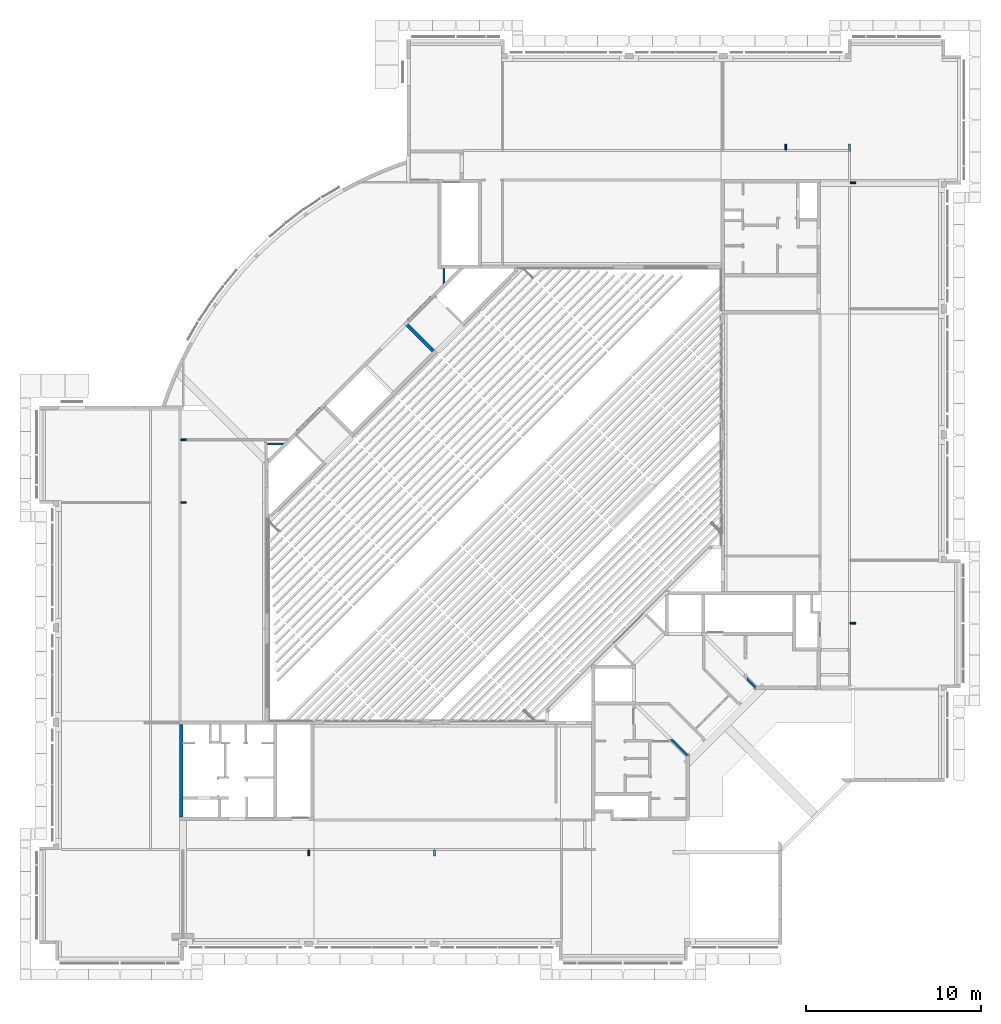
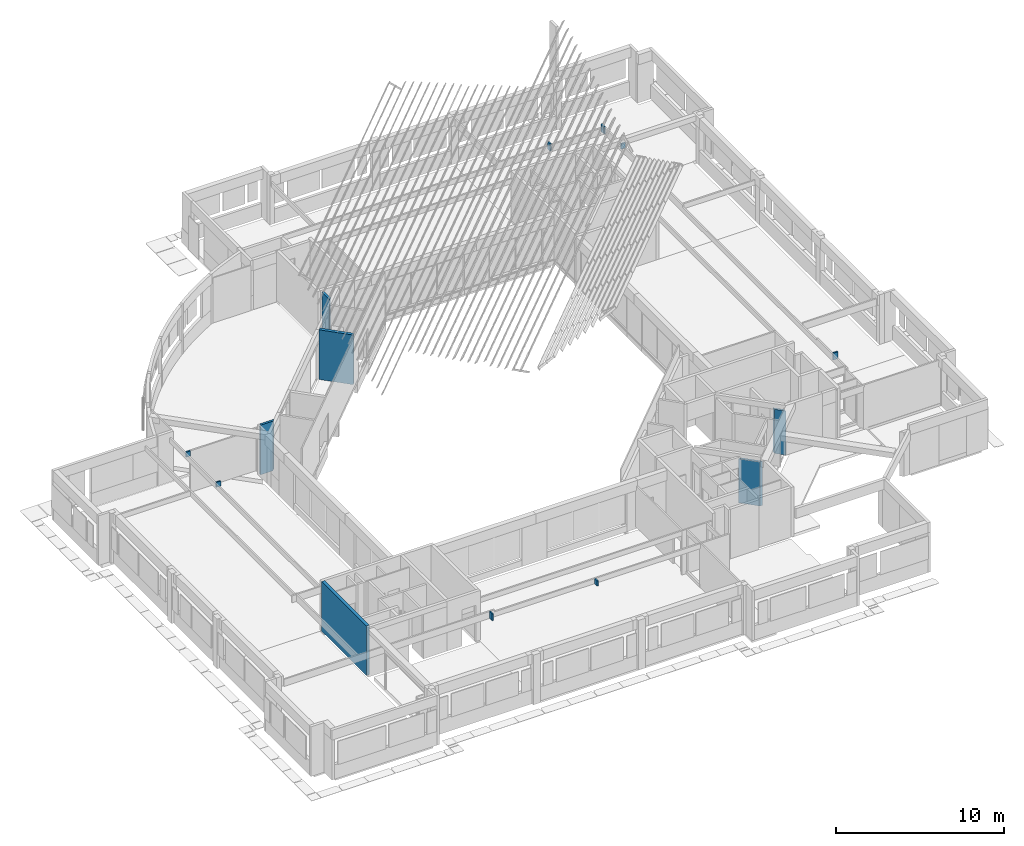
# One storey, part 31 of 37: 14 walls.
"""IFC4X3_ADD2 building model written with IfcOpenShell, lengths in millimetres."""

from ifc_helpers import new_model, si_unit, direction, frame, origin_with_axes, origin_2d_with_axis, place, context, subcontext, project, spatial, rectangle, extrude, polygons, source, transform, mapped, type_object, type_shapes, element, save


model = new_model("IFC4X3_ADD2")

# Units and contexts
model_context = context("Model", 3, precision=1e-05, world=origin_with_axes(), true_north=direction((0.0, 1.0)))
body_context = subcontext(model_context, "Body", "Model", "MODEL_VIEW")
ifc_project = project(units=[si_unit("LENGTHUNIT", "METRE", prefix="MILLI"), si_unit("AREAUNIT", "SQUARE_METRE"), si_unit("VOLUMEUNIT", "CUBIC_METRE"), si_unit("PLANEANGLEUNIT", "RADIAN"), si_unit("TIMEUNIT", "SECOND"), si_unit("MASSUNIT", "GRAM")], contexts=[model_context])

# Site, building, storey
site_placement = place(None, origin_with_axes())
site = spatial("IfcSite", under=ifc_project, at=site_placement, Name="Site", CompositionType="ELEMENT")
building_placement = place(site_placement, origin_with_axes())
building = spatial("IfcBuilding", under=site, at=building_placement, Name="IFC Building Story")
storey_placement = place(building_placement, frame((0.0, 0.0, 3600.0), z_axis=(0.0, 0.0, 1.0), x_axis=(1.0, 0.0, 0.0)))
storey = spatial("IfcBuildingStorey", under=building, at=storey_placement, Name="010", Elevation=3600.0)

# Walls
wall_type_1 = type_object("IfcWallType", Name="Basic Wall_BB_10.01.41#03_Gipskartonwand_43dB_MS100 _ 25.50.25_ 100 mm53", PredefinedType="NOTDEFINED")
shared_shape_1 = source(origin_with_axes(), body_context, "Body", "SweptSolid", [
    extrude(rectangle(XDim=299.999999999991, YDim=12.49999999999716, at=origin_2d_with_axis()), frame((150.0, 43.74999999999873, 0.0), z_axis=(0.0, 0.0, 1.0), x_axis=(1.0, 0.0, 0.0)), (0.0, 0.0, 1.0), 369.999999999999),
    extrude(rectangle(XDim=299.999999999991, YDim=12.49999999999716, at=origin_2d_with_axis()), frame((150.0, 31.25000000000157, 0.0), z_axis=(0.0, 0.0, 1.0), x_axis=(1.0, 0.0, 0.0)), (0.0, 0.0, 1.0), 369.999999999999),
    extrude(rectangle(XDim=299.999999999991, YDim=50.000000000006, at=origin_2d_with_axis()), frame((150.0, 0.0, 0.0), z_axis=(0.0, 0.0, 1.0), x_axis=(1.0, 0.0, 0.0)), (0.0, 0.0, 1.0), 369.999999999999),
    extrude(rectangle(XDim=299.999999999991, YDim=12.49999999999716, at=origin_2d_with_axis()), frame((150.0, -31.25000000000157, 0.0), z_axis=(0.0, 0.0, 1.0), x_axis=(1.0, 0.0, 0.0)), (0.0, 0.0, 1.0), 369.999999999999),
    extrude(rectangle(XDim=299.999999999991, YDim=12.50000000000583, at=origin_2d_with_axis()), frame((150.0, -43.750000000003, 0.0), z_axis=(0.0, 0.0, 1.0), x_axis=(1.0, 0.0, 0.0)), (0.0, 0.0, 1.0), 369.999999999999),
])
type_shapes(wall_type_1, [shared_shape_1])
wall_1_placement = place(storey_placement, frame((-5300.0, 43500.0, 2640.0), z_axis=(0.0, 0.0, 1.0), x_axis=(1.0, 0.0, 0.0)))
element("IfcWall", 1, at=wall_1_placement, inside=storey, type_object=wall_type_1, Name="Basic Wall:BB_10.01.41#03_Gipskartonwand_43dB_MS100 / 25.50.25, 100 mm", ObjectType="Basic Wall:BB_10.01.41#03_Gipskartonwand_43dB_MS100 / 25.50.25, 100 mm", PredefinedType="PARTITIONING", context=body_context, shape_type="MappedRepresentation", body=[
    mapped(shared_shape_1, transform((0.0, 0.0, 0.0))),
])
wall_type_2 = type_object("IfcWallType", Name="Basic Wall_BB_10.01.41#01_Gipskartonwand_MS100 _ 25.50.25_ 100 mm29", PredefinedType="NOTDEFINED")
shared_shape_2 = source(origin_with_axes(), body_context, "Body", "SweptSolid", [
    extrude(rectangle(XDim=400.000000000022, YDim=12.49999999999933, at=origin_2d_with_axis()), frame((199.999999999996, 43.74999999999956, 0.0), z_axis=(0.0, 0.0, 1.0), x_axis=(1.0, 0.0, 0.0)), (0.0, 0.0, 1.0), 500.000000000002),
    extrude(rectangle(XDim=387.500000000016, YDim=12.50000000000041, at=origin_2d_with_axis()), frame((193.750000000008, 31.2499999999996, 0.0), z_axis=(0.0, 0.0, 1.0), x_axis=(1.0, 0.0, 0.0)), (0.0, 0.0, 1.0), 500.000000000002),
    extrude(rectangle(XDim=375.000000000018, YDim=49.9999999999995, at=origin_2d_with_axis()), frame((187.500000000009, 0.0, 0.0), z_axis=(0.0, 0.0, 1.0), x_axis=(1.0, 0.0, 0.0)), (0.0, 0.0, 1.0), 500.000000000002),
    extrude(rectangle(XDim=325.000000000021, YDim=12.5000000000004, at=origin_2d_with_axis()), frame((162.5000000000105, -31.2500000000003, 0.0), z_axis=(0.0, 0.0, 1.0), x_axis=(1.0, 0.0, 0.0)), (0.0, 0.0, 1.0), 500.000000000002),
    extrude(rectangle(XDim=312.500000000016, YDim=12.50000000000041, at=origin_2d_with_axis()), frame((156.249999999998, -43.75000000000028, 0.0), z_axis=(0.0, 0.0, 1.0), x_axis=(1.0, 0.0, 0.0)), (0.0, 0.0, 1.0), 500.000000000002),
])
type_shapes(wall_type_2, [shared_shape_2])
wall_2_placement = place(storey_placement, frame((-5350.0, 45700.0, 2640.0), z_axis=(0.0, 0.0, 1.0), x_axis=(0.0, -1.0, 0.0)))
element("IfcWall", 2, at=wall_2_placement, inside=storey, type_object=wall_type_2, Name="Basic Wall:BB_10.01.41#01_Gipskartonwand_MS100 / 25.50.25, 100 mm", ObjectType="Basic Wall:BB_10.01.41#01_Gipskartonwand_MS100 / 25.50.25, 100 mm", PredefinedType="PARTITIONING", context=body_context, shape_type="MappedRepresentation", body=[
    mapped(shared_shape_2, transform((0.0, 0.0, 0.0))),
])
wall_type_3 = type_object("IfcWallType", Name="Basic Wall_BB_10.01.41#01_Gipskartonwand_MS100 _ 25.50.25_ 100 mm35", PredefinedType="NOTDEFINED")
shared_shape_3 = source(origin_with_axes(), body_context, "Body", "SweptSolid", [
    extrude(rectangle(XDim=300.000000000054, YDim=12.49999999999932, at=origin_2d_with_axis()), frame((150.0, 43.74999999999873, 0.0), z_axis=(0.0, 0.0, 1.0), x_axis=(1.0, 0.0, 0.0)), (0.0, 0.0, 1.0), 499.999999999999),
    extrude(rectangle(XDim=300.000000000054, YDim=12.50000000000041, at=origin_2d_with_axis()), frame((150.0, 31.25000000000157, 0.0), z_axis=(0.0, 0.0, 1.0), x_axis=(1.0, 0.0, 0.0)), (0.0, 0.0, 1.0), 499.999999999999),
    extrude(rectangle(XDim=325.000000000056, YDim=49.9999999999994, at=origin_2d_with_axis()), frame((137.500000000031, 0.0, 0.0), z_axis=(0.0, 0.0, 1.0), x_axis=(1.0, 0.0, 0.0)), (0.0, 0.0, 1.0), 499.999999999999),
    extrude(rectangle(XDim=312.500000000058, YDim=12.50000000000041, at=origin_2d_with_axis()), frame((143.750000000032, -31.24999999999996, 0.0), z_axis=(0.0, 0.0, 1.0), x_axis=(1.0, 0.0, 0.0)), (0.0, 0.0, 1.0), 499.999999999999),
    extrude(rectangle(XDim=300.000000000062, YDim=12.50000000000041, at=origin_2d_with_axis()), frame((150.0, -43.750000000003, 0.0), z_axis=(0.0, 0.0, 1.0), x_axis=(1.0, 0.0, 0.0)), (0.0, 0.0, 1.0), 499.999999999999),
])
type_shapes(wall_type_3, [shared_shape_3])
wall_3_placement = place(storey_placement, frame((-9000.0, 45400.0, 2640.0), z_axis=(0.0, 0.0, 1.0), x_axis=(0.0, 1.0, 0.0)))
element("IfcWall", 3, at=wall_3_placement, inside=storey, type_object=wall_type_3, Name="Basic Wall:BB_10.01.41#01_Gipskartonwand_MS100 / 25.50.25, 100 mm", ObjectType="Basic Wall:BB_10.01.41#01_Gipskartonwand_MS100 / 25.50.25, 100 mm", PredefinedType="PARTITIONING", context=body_context, shape_type="MappedRepresentation", body=[
    mapped(shared_shape_3, transform((0.0, 0.0, 0.0))),
])
wall_type_4 = type_object("IfcWallType", Name="Basic Wall_BB_10.01.41#01_Gipskartonwand_MS100 _ 25.50.25_ 100 mm39", PredefinedType="NOTDEFINED")
shared_shape_4 = source(origin_with_axes(), body_context, "Body", "SweptSolid", [
    extrude(rectangle(XDim=300.000000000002, YDim=12.49999999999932, at=origin_2d_with_axis()), frame((150.0, 43.74999999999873, 0.0), z_axis=(0.0, 0.0, 1.0), x_axis=(1.0, 0.0, 0.0)), (0.0, 0.0, 1.0), 500.000000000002),
    extrude(rectangle(XDim=312.500000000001, YDim=12.49999999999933, at=origin_2d_with_axis()), frame((156.2500000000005, 31.25000000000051, 0.0), z_axis=(0.0, 0.0, 1.0), x_axis=(1.0, 0.0, 0.0)), (0.0, 0.0, 1.0), 500.000000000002),
    extrude(rectangle(XDim=325.000000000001, YDim=50.0000000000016, at=origin_2d_with_axis()), frame((162.5000000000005, 0.0, 0.0), z_axis=(0.0, 0.0, 1.0), x_axis=(1.0, 0.0, 0.0)), (0.0, 0.0, 1.0), 500.000000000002),
    extrude(rectangle(XDim=300.000000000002, YDim=12.49999999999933, at=origin_2d_with_axis()), frame((150.0, -31.25000000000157, 0.0), z_axis=(0.0, 0.0, 1.0), x_axis=(1.0, 0.0, 0.0)), (0.0, 0.0, 1.0), 500.000000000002),
    extrude(rectangle(XDim=300.000000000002, YDim=12.49999999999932, at=origin_2d_with_axis()), frame((150.0, -43.750000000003, 0.0), z_axis=(0.0, 0.0, 1.0), x_axis=(1.0, 0.0, 0.0)), (0.0, 0.0, 1.0), 500.000000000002),
])
type_shapes(wall_type_4, [shared_shape_4])
wall_4_placement = place(storey_placement, frame((-5000.0, 18300.0, 2640.0), z_axis=(0.0, 0.0, 1.0), x_axis=(-1.0, 0.0, 0.0)))
element("IfcWall", 4, at=wall_4_placement, inside=storey, type_object=wall_type_4, Name="Basic Wall:BB_10.01.41#01_Gipskartonwand_MS100 / 25.50.25, 100 mm", ObjectType="Basic Wall:BB_10.01.41#01_Gipskartonwand_MS100 / 25.50.25, 100 mm", PredefinedType="PARTITIONING", context=body_context, shape_type="MappedRepresentation", body=[
    mapped(shared_shape_4, transform((0.0, 0.0, 0.0))),
])
wall_type_5 = type_object("IfcWallType", Name="Basic Wall_BB_10.01.41#01_Gipskartonwand_MS100 _ 25.50.25_ 100 mm53", PredefinedType="NOTDEFINED")
shared_shape_5 = source(origin_with_axes(), body_context, "Body", "SweptSolid", [
    extrude(rectangle(XDim=300.000000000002, YDim=12.50000000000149, at=origin_2d_with_axis()), frame((150.0, 43.74999999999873, 0.0), z_axis=(0.0, 0.0, 1.0), x_axis=(1.0, 0.0, 0.0)), (0.0, 0.0, 1.0), 360.0),
    extrude(rectangle(XDim=312.500000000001, YDim=12.50000000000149, at=origin_2d_with_axis()), frame((156.2500000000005, 31.25000000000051, 0.0), z_axis=(0.0, 0.0, 1.0), x_axis=(1.0, 0.0, 0.0)), (0.0, 0.0, 1.0), 360.0),
    extrude(rectangle(XDim=325.0, YDim=49.9999999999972, at=origin_2d_with_axis()), frame((162.5000000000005, 0.0, 0.0), z_axis=(0.0, 0.0, 1.0), x_axis=(1.0, 0.0, 0.0)), (0.0, 0.0, 1.0), 360.0),
    extrude(rectangle(XDim=300.0, YDim=12.50000000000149, at=origin_2d_with_axis()), frame((150.0, -31.25000000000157, 0.0), z_axis=(0.0, 0.0, 1.0), x_axis=(1.0, 0.0, 0.0)), (0.0, 0.0, 1.0), 360.0),
    extrude(rectangle(XDim=300.0, YDim=12.49999999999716, at=origin_2d_with_axis()), frame((150.0, -43.750000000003, 0.0), z_axis=(0.0, 0.0, 1.0), x_axis=(1.0, 0.0, 0.0)), (0.0, 0.0, 1.0), 360.0),
])
type_shapes(wall_type_5, [shared_shape_5])
wall_5_placement = place(storey_placement, frame((-29100.0, 5000.0, 2640.0), z_axis=(0.0, 0.0, 1.0), x_axis=(0.0, 1.0, 0.0)))
element("IfcWall", 5, at=wall_5_placement, inside=storey, type_object=wall_type_5, Name="Basic Wall:BB_10.01.41#01_Gipskartonwand_MS100 / 25.50.25, 100 mm", ObjectType="Basic Wall:BB_10.01.41#01_Gipskartonwand_MS100 / 25.50.25, 100 mm", PredefinedType="PARTITIONING", context=body_context, shape_type="MappedRepresentation", body=[
    mapped(shared_shape_5, transform((0.0, 0.0, 0.0))),
])
wall_type_6 = type_object("IfcWallType", Name="Basic Wall_BB_10.01.41#01_Gipskartonwand_MS100 _ 25.50.25_ 100 mm69", PredefinedType="NOTDEFINED")
shared_shape_6 = source(origin_with_axes(), body_context, "Body", "SweptSolid", [
    extrude(rectangle(XDim=299.9999999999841, YDim=12.50000000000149, at=origin_2d_with_axis()), frame((150.0, 43.74999999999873, 0.0), z_axis=(0.0, 0.0, 1.0), x_axis=(1.0, 0.0, 0.0)), (0.0, 0.0, 1.0), 360.0),
    extrude(rectangle(XDim=299.9999999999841, YDim=12.50000000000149, at=origin_2d_with_axis()), frame((150.0, 31.25000000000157, 0.0), z_axis=(0.0, 0.0, 1.0), x_axis=(1.0, 0.0, 0.0)), (0.0, 0.0, 1.0), 360.0),
    extrude(rectangle(XDim=299.9999999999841, YDim=49.9999999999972, at=origin_2d_with_axis()), frame((150.0, 0.0, 0.0), z_axis=(0.0, 0.0, 1.0), x_axis=(1.0, 0.0, 0.0)), (0.0, 0.0, 1.0), 360.0),
    extrude(rectangle(XDim=299.9999999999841, YDim=12.50000000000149, at=origin_2d_with_axis()), frame((150.0, -31.25000000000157, 0.0), z_axis=(0.0, 0.0, 1.0), x_axis=(1.0, 0.0, 0.0)), (0.0, 0.0, 1.0), 360.0),
    extrude(rectangle(XDim=299.9999999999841, YDim=12.49999999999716, at=origin_2d_with_axis()), frame((150.0, -43.750000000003, 0.0), z_axis=(0.0, 0.0, 1.0), x_axis=(1.0, 0.0, 0.0)), (0.0, 0.0, 1.0), 360.0),
])
type_shapes(wall_type_6, [shared_shape_6])
wall_6_placement = place(storey_placement, frame((-43315.0, 25200.0, 2640.0), z_axis=(0.0, 0.0, 1.0), x_axis=(-1.0, 0.0, 0.0)))
element("IfcWall", 6, at=wall_6_placement, inside=storey, type_object=wall_type_6, Name="Basic Wall:BB_10.01.41#01_Gipskartonwand_MS100 / 25.50.25, 100 mm", ObjectType="Basic Wall:BB_10.01.41#01_Gipskartonwand_MS100 / 25.50.25, 100 mm", PredefinedType="PARTITIONING", context=body_context, shape_type="MappedRepresentation", body=[
    mapped(shared_shape_6, transform((0.0, 0.0, 0.0))),
])
wall_type_7 = type_object("IfcWallType", Name="Basic Wall_BB_10.01.41#01_Gipskartonwand_MS100 _ 25.50.25_ 100 mm71", PredefinedType="NOTDEFINED")
shared_shape_7 = source(origin_with_axes(), body_context, "Body", "SweptSolid", [
    extrude(rectangle(XDim=299.9999999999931, YDim=12.50000000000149, at=origin_2d_with_axis()), frame((150.0, 43.74999999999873, 0.0), z_axis=(0.0, 0.0, 1.0), x_axis=(1.0, 0.0, 0.0)), (0.0, 0.0, 1.0), 360.0),
    extrude(rectangle(XDim=299.9999999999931, YDim=12.50000000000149, at=origin_2d_with_axis()), frame((150.0, 31.25000000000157, 0.0), z_axis=(0.0, 0.0, 1.0), x_axis=(1.0, 0.0, 0.0)), (0.0, 0.0, 1.0), 360.0),
    extrude(rectangle(XDim=299.9999999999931, YDim=49.9999999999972, at=origin_2d_with_axis()), frame((150.0, 0.0, 0.0), z_axis=(0.0, 0.0, 1.0), x_axis=(1.0, 0.0, 0.0)), (0.0, 0.0, 1.0), 360.0),
    extrude(rectangle(XDim=299.9999999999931, YDim=12.50000000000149, at=origin_2d_with_axis()), frame((150.0, -31.25000000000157, 0.0), z_axis=(0.0, 0.0, 1.0), x_axis=(1.0, 0.0, 0.0)), (0.0, 0.0, 1.0), 360.0),
    extrude(rectangle(XDim=299.9999999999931, YDim=12.49999999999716, at=origin_2d_with_axis()), frame((150.0, -43.750000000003, 0.0), z_axis=(0.0, 0.0, 1.0), x_axis=(1.0, 0.0, 0.0)), (0.0, 0.0, 1.0), 360.0),
])
type_shapes(wall_type_7, [shared_shape_7])
wall_7_placement = place(storey_placement, frame((-43315.0, 28800.0, 2640.0), z_axis=(0.0, 0.0, 1.0), x_axis=(-1.0, 0.0, 0.0)))
element("IfcWall", 7, at=wall_7_placement, inside=storey, type_object=wall_type_7, Name="Basic Wall:BB_10.01.41#01_Gipskartonwand_MS100 / 25.50.25, 100 mm", ObjectType="Basic Wall:BB_10.01.41#01_Gipskartonwand_MS100 / 25.50.25, 100 mm", PredefinedType="PARTITIONING", context=body_context, shape_type="MappedRepresentation", body=[
    mapped(shared_shape_7, transform((0.0, 0.0, 0.0))),
])
wall_type_8 = type_object("IfcWallType", Name="Basic Wall_BB_10.01.41#01_Gipskartonwand_MS100 _ 25.50.25_ 100 mm73", PredefinedType="NOTDEFINED")
shared_shape_8 = source(origin_with_axes(), body_context, "Body", "SweptSolid", [
    extrude(rectangle(XDim=300.000000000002, YDim=12.50000000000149, at=origin_2d_with_axis()), frame((150.0, 43.74999999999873, 0.0), z_axis=(0.0, 0.0, 1.0), x_axis=(1.0, 0.0, 0.0)), (0.0, 0.0, 1.0), 500.0),
    extrude(rectangle(XDim=312.500000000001, YDim=12.50000000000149, at=origin_2d_with_axis()), frame((156.2500000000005, 31.25000000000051, 0.0), z_axis=(0.0, 0.0, 1.0), x_axis=(1.0, 0.0, 0.0)), (0.0, 0.0, 1.0), 500.0),
    extrude(rectangle(XDim=325.000000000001, YDim=49.9999999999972, at=origin_2d_with_axis()), frame((162.5000000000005, 0.0, 0.0), z_axis=(0.0, 0.0, 1.0), x_axis=(1.0, 0.0, 0.0)), (0.0, 0.0, 1.0), 500.0),
    extrude(rectangle(XDim=300.000000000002, YDim=12.50000000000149, at=origin_2d_with_axis()), frame((150.0, -31.25000000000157, 0.0), z_axis=(0.0, 0.0, 1.0), x_axis=(1.0, 0.0, 0.0)), (0.0, 0.0, 1.0), 500.0),
    extrude(rectangle(XDim=300.000000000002, YDim=12.49999999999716, at=origin_2d_with_axis()), frame((150.0, -43.750000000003, 0.0), z_axis=(0.0, 0.0, 1.0), x_axis=(1.0, 0.0, 0.0)), (0.0, 0.0, 1.0), 500.0),
])
type_shapes(wall_type_8, [shared_shape_8])
wall_8_placement = place(storey_placement, frame((-36300.0, 5000.0, 2640.0), z_axis=(0.0, 0.0, 1.0), x_axis=(0.0, 1.0, 0.0)))
element("IfcWall", 8, at=wall_8_placement, inside=storey, type_object=wall_type_8, Name="Basic Wall:BB_10.01.41#01_Gipskartonwand_MS100 / 25.50.25, 100 mm", ObjectType="Basic Wall:BB_10.01.41#01_Gipskartonwand_MS100 / 25.50.25, 100 mm", PredefinedType="PARTITIONING", context=body_context, shape_type="MappedRepresentation", body=[
    mapped(shared_shape_8, transform((0.0, 0.0, 0.0))),
])
wall_9_placement = place(storey_placement, frame((0.0, 0.0, -3600.0), z_axis=(0.0, 0.0, 1.0), x_axis=(1.0, 0.0, 0.0)))
element("IfcWall", 9, at=wall_9_placement, inside=storey, Name="Basic Wall:BB_XX_Wand uit beton, 200 mm", ObjectType="Basic Wall:BB_XX_Wand uit beton, 200 mm", PredefinedType="SOLIDWALL", context=body_context, shape_type="Tessellation", body=[
    polygons([(-43500.00000000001, 7200.0, 7120.0), (-43500.00000000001, 7200.0, 3520.0), (-43500.00000000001, 12500.00406588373, 3520.0), (-43500.00000000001, 12500.00406588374, 7120.0), (-43700.00000000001, 7200.0, 3520.0), (-43700.00000000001, 7199.999999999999, 6740.0), (-43700.00000000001, 7200.0, 7120.0), (-43700.00000000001, 12500.00406588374, 7120.0), (-43700.00000000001, 12500.00406588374, 3520.0)], [[[1, 2, 3, 4]], [[6, 7, 8]], [[8, 9, 5]], [[8, 5, 6]], [[2, 5, 9, 3]], [[7, 1, 4, 8]], [[6, 5, 2]], [[6, 2, 1]], [[1, 7, 6]], [[4, 3, 9, 8]]]),
])
wall_10_placement = place(storey_placement, frame((0.0, 0.0, -3600.0), z_axis=(0.0, 0.0, 1.0), x_axis=(1.0, 0.0, 0.0)))
element("IfcWall", 10, at=wall_10_placement, inside=storey, Name="Basic Wall:BB_XX_Wand uit metselwerk, 140 mm", ObjectType="Basic Wall:BB_XX_Wand uit metselwerk, 140 mm", PredefinedType="SOLIDWALL", context=body_context, shape_type="Tessellation", body=[
    polygons([(-38655.0, 28484.0, 3400.0), (-37811.83694395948, 28484.0, 3400.0), (-37811.83694395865, 28484.0, 7000.0), (-38655.0, 28484.0, 7000.0), (-37671.83694395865, 28624.0, 7000.0), (-37671.83694395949, 28624.0, 3400.0), (-38655.0, 28624.0, 3400.0), (-38655.0, 28624.0, 7000.0)], [[[1, 2, 3, 4]], [[5, 6, 7, 8]], [[1, 7, 6, 2]], [[8, 4, 3, 5]], [[2, 6, 5, 3]], [[4, 8, 7, 1]]]),
])
wall_11_placement = place(storey_placement, frame((0.0, 0.0, -3600.0), z_axis=(0.0, 0.0, 1.0), x_axis=(1.0, 0.0, 0.0)))
element("IfcWall", 11, at=wall_11_placement, inside=storey, Name="Basic Wall:BB_XX_Wand uit beton, 200 mm", ObjectType="Basic Wall:BB_XX_Wand uit beton, 200 mm", PredefinedType="SOLIDWALL", context=body_context, shape_type="Tessellation", body=[
    polygons([(-30719.00667860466, 35293.98755288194, 7000.0), (-30719.00667860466, 35293.98755288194, 3400.0), (-29234.08243811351, 33809.06331239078, 3400.0), (-29234.08243811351, 33809.06331239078, 7000.0), (-30577.58532236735, 35435.40890911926, 3400.0), (-30577.58532236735, 35435.40890911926, 7000.0), (-29092.66108187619, 33950.48466862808, 7000.0), (-29092.66108187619, 33950.48466862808, 3400.0)], [[[1, 2, 3, 4]], [[5, 6, 7, 8]], [[2, 5, 8, 3]], [[6, 1, 4, 7]], [[2, 1, 6, 5]], [[4, 3, 8, 7]]]),
])
wall_12_placement = place(storey_placement, frame((0.0, 0.0, -3600.0), z_axis=(0.0, 0.0, 1.0), x_axis=(1.0, 0.0, 0.0)))
element("IfcWall", 12, at=wall_12_placement, inside=storey, Name="Basic Wall:BB_XX_Wand uit metselwerk, 140 mm", ObjectType="Basic Wall:BB_XX_Wand uit metselwerk, 140 mm", PredefinedType="SOLIDWALL", context=body_context, shape_type="Tessellation", body=[
    polygons([(-11209.99999999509, 15191.984848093, 3520.0), (-11209.99999999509, 15191.984848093, 6720.0), (-10716.00505063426, 14697.98989873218, 6720.0), (-10716.00505063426, 14697.98989873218, 3520.0), (-11209.99999999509, 14993.99494936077, 3520.0), (-10716.00505063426, 14499.99999999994, 3520.0), (-10716.00505063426, 14499.99999999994, 6720.0), (-11209.99999999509, 14993.99494936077, 6720.0)], [[[1, 2, 3, 4]], [[5, 6, 7, 8]], [[6, 5, 1, 4]], [[8, 7, 3, 2]], [[4, 3, 7, 6]], [[1, 5, 8, 2]]]),
])
wall_13_placement = place(storey_placement, frame((0.0, 0.0, -3600.0), z_axis=(0.0, 0.0, 1.0), x_axis=(1.0, 0.0, 0.0)))
element("IfcWall", 13, at=wall_13_placement, inside=storey, Name="Basic Wall:BB_XX_Wand uit metselwerk, 140 mm", ObjectType="Basic Wall:BB_XX_Wand uit metselwerk, 140 mm", PredefinedType="SOLIDWALL", context=body_context, shape_type="Tessellation", body=[
    polygons([(-15632.98989873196, 11649.99999999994, 6720.0), (-15632.98989873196, 11649.99999999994, 3519.999999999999), (-15492.98989873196, 11509.99999999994, 3520.0), (-14697.98989873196, 10714.99999999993, 3519.999999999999), (-14697.98989873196, 10714.99999999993, 6720.0), (-14499.99999999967, 10714.99999999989, 3519.999999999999), (-15434.99999999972, 11649.99999999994, 3519.999999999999), (-15434.99999999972, 11649.99999999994, 6720.0), (-14499.99999999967, 10714.99999999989, 6720.0)], [[[3, 4, 5]], [[3, 5, 1]], [[1, 2, 3]], [[6, 7, 8, 9]], [[3, 2, 7]], [[7, 6, 4]], [[7, 4, 3]], [[9, 8, 1, 5]], [[5, 4, 6, 9]], [[2, 1, 8, 7]]]),
])
wall_14_placement = place(storey_placement, frame((0.0, 0.0, -3600.0), z_axis=(0.0, 0.0, 1.0), x_axis=(1.0, 0.0, 0.0)))
element("IfcWall", 14, at=wall_14_placement, inside=storey, Name="Basic Wall:BB_XX_Wand uit metselwerk, 140 mm", ObjectType="Basic Wall:BB_XX_Wand uit metselwerk, 140 mm", PredefinedType="SOLIDWALL", context=body_context, shape_type="Tessellation", body=[
    polygons([(-28624.0, 38599.9959341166, 7000.0), (-28624.0, 38599.9959341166, 3400.0), (-28624.0, 37671.83694396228, 3400.0), (-28624.0, 37671.83694396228, 7000.0), (-28484.0, 38599.9959341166, 3400.0), (-28484.0, 38599.9959341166, 7000.0), (-28484.0, 37811.83694396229, 7000.0), (-28484.0, 37811.83694396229, 3400.0)], [[[1, 2, 3, 4]], [[5, 6, 7, 8]], [[2, 5, 8, 3]], [[6, 1, 4, 7]], [[2, 1, 6, 5]], [[4, 3, 8, 7]]]),
])

save(model, "model.ifc")
